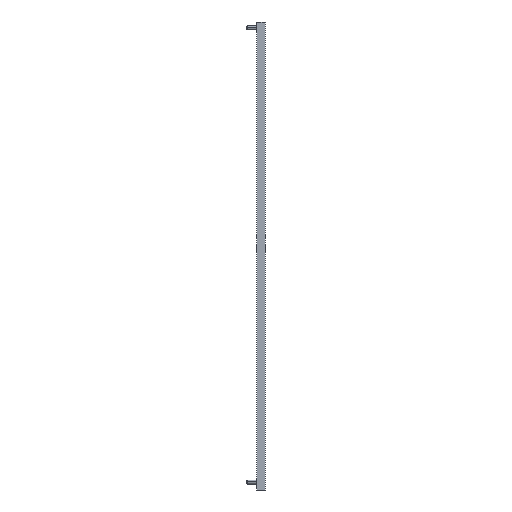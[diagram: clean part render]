
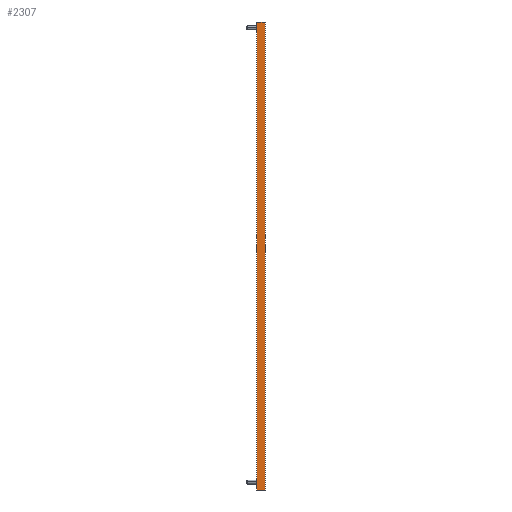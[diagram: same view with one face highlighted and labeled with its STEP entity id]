
A CAD part, left-side view. The second image highlights one B-rep face of the part: STEP entity #2307.
In plain terms, the highlighted planar face has unit normal (-1, 0, 0).
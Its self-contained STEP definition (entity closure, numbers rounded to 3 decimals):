
#4 = AXIS2_PLACEMENT_3D ( 'NONE', #572, #1577, #321 ) ;
#59 = PLANE ( 'NONE',  #4 ) ;
#84 = CARTESIAN_POINT ( 'NONE',  ( -8., 0., 0. ) ) ;
#271 = VECTOR ( 'NONE', #1173, 1000. ) ;
#288 = CARTESIAN_POINT ( 'NONE',  ( -8., 0., 0. ) ) ;
#321 = DIRECTION ( 'NONE',  ( 0., 0., 1. ) ) ;
#394 = CARTESIAN_POINT ( 'NONE',  ( -8., 0., 0. ) ) ;
#498 = EDGE_CURVE ( 'NONE', #2808, #3053, #1058, .T. ) ;
#572 = CARTESIAN_POINT ( 'NONE',  ( -8., 0., 679. ) ) ;
#723 = CARTESIAN_POINT ( 'NONE',  ( -8., 0., 679. ) ) ;
#725 = VERTEX_POINT ( 'NONE', #723 ) ;
#751 = DIRECTION ( 'NONE',  ( 0., -1., 0. ) ) ;
#778 = DIRECTION ( 'NONE',  ( 0., 1., 0. ) ) ;
#842 = CARTESIAN_POINT ( 'NONE',  ( -8., 9.3, 679. ) ) ;
#883 = CARTESIAN_POINT ( 'NONE',  ( -8., 12.5, 679. ) ) ;
#1058 = LINE ( 'NONE', #288, #2352 ) ;
#1145 = EDGE_CURVE ( 'NONE', #2820, #2476, #2287, .T. ) ;
#1173 = DIRECTION ( 'NONE',  ( 0., -1., 0. ) ) ;
#1259 = ORIENTED_EDGE ( 'NONE', *, *, #498, .T. ) ;
#1394 = DIRECTION ( 'NONE',  ( 0., 0., 1. ) ) ;
#1440 = CARTESIAN_POINT ( 'NONE',  ( -8., 0., 679. ) ) ;
#1476 = CARTESIAN_POINT ( 'NONE',  ( -8., 9.3, 0. ) ) ;
#1497 = LINE ( 'NONE', #1509, #2364 ) ;
#1509 = CARTESIAN_POINT ( 'NONE',  ( -8., 0., 679. ) ) ;
#1566 = ORIENTED_EDGE ( 'NONE', *, *, #1145, .T. ) ;
#1577 = DIRECTION ( 'NONE',  ( -1., 0., 0. ) ) ;
#1604 = VERTEX_POINT ( 'NONE', #842 ) ;
#1651 = ORIENTED_EDGE ( 'NONE', *, *, #1658, .F. ) ;
#1658 = EDGE_CURVE ( 'NONE', #2820, #3114, #2613, .T. ) ;
#1672 = VECTOR ( 'NONE', #1823, 1000. ) ;
#1723 = EDGE_CURVE ( 'NONE', #3053, #725, #2923, .T. ) ;
#1757 = LINE ( 'NONE', #2760, #2256 ) ;
#1823 = DIRECTION ( 'NONE',  ( 0., -1., 0. ) ) ;
#1860 = LINE ( 'NONE', #883, #271 ) ;
#1914 = VERTEX_POINT ( 'NONE', #2495 ) ;
#1936 = ORIENTED_EDGE ( 'NONE', *, *, #2268, .T. ) ;
#1948 = EDGE_CURVE ( 'NONE', #2476, #2808, #1995, .T. ) ;
#1953 = CARTESIAN_POINT ( 'NONE',  ( -8., 12.5, 679. ) ) ;
#1970 = ORIENTED_EDGE ( 'NONE', *, *, #2723, .F. ) ;
#1971 = EDGE_CURVE ( 'NONE', #725, #1914, #1497, .T. ) ;
#1990 = VECTOR ( 'NONE', #1394, 1000. ) ;
#1995 = LINE ( 'NONE', #2544, #2679 ) ;
#2097 = DIRECTION ( 'NONE',  ( 0., 0., 1. ) ) ;
#2098 = VECTOR ( 'NONE', #2097, 1000. ) ;
#2234 = CARTESIAN_POINT ( 'NONE',  ( -8., 3.2, 0. ) ) ;
#2251 = CARTESIAN_POINT ( 'NONE',  ( -8., 12.5, 0. ) ) ;
#2256 = VECTOR ( 'NONE', #778, 1000. ) ;
#2258 = DIRECTION ( 'NONE',  ( 0., 1., 0. ) ) ;
#2268 = EDGE_CURVE ( 'NONE', #1914, #1604, #1757, .T. ) ;
#2272 = ORIENTED_EDGE ( 'NONE', *, *, #1971, .T. ) ;
#2287 = LINE ( 'NONE', #84, #1672 ) ;
#2307 = ADVANCED_FACE ( 'NONE', ( #2313 ), #59, .T. ) ;
#2313 = FACE_OUTER_BOUND ( 'NONE', #2423, .T. ) ;
#2344 = CARTESIAN_POINT ( 'NONE',  ( -8., 12.5, 679. ) ) ;
#2352 = VECTOR ( 'NONE', #751, 1000. ) ;
#2364 = VECTOR ( 'NONE', #2258, 1000. ) ;
#2423 = EDGE_LOOP ( 'NONE', ( #1651, #1566, #2859, #1259, #2785, #2272, #1936, #1970 ) ) ;
#2476 = VERTEX_POINT ( 'NONE', #1476 ) ;
#2479 = DIRECTION ( 'NONE',  ( 0., -1., 0. ) ) ;
#2495 = CARTESIAN_POINT ( 'NONE',  ( -8., 3.2, 679. ) ) ;
#2544 = CARTESIAN_POINT ( 'NONE',  ( -8., 0., 0. ) ) ;
#2613 = LINE ( 'NONE', #2344, #2098 ) ;
#2679 = VECTOR ( 'NONE', #2479, 1000. ) ;
#2723 = EDGE_CURVE ( 'NONE', #3114, #1604, #1860, .T. ) ;
#2760 = CARTESIAN_POINT ( 'NONE',  ( -8., 0., 679. ) ) ;
#2785 = ORIENTED_EDGE ( 'NONE', *, *, #1723, .T. ) ;
#2808 = VERTEX_POINT ( 'NONE', #2234 ) ;
#2820 = VERTEX_POINT ( 'NONE', #2251 ) ;
#2859 = ORIENTED_EDGE ( 'NONE', *, *, #1948, .T. ) ;
#2923 = LINE ( 'NONE', #1440, #1990 ) ;
#3053 = VERTEX_POINT ( 'NONE', #394 ) ;
#3114 = VERTEX_POINT ( 'NONE', #1953 ) ;
